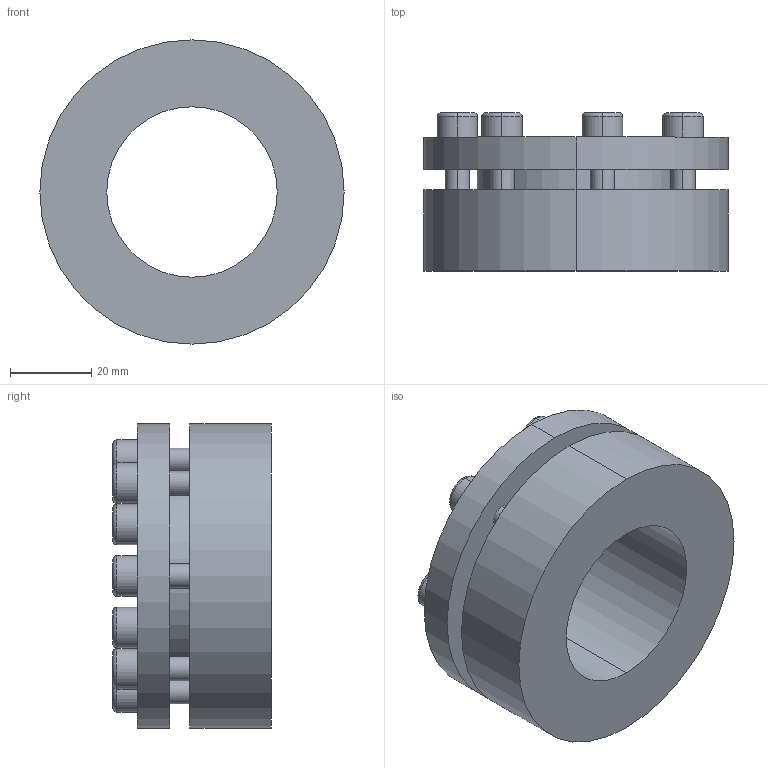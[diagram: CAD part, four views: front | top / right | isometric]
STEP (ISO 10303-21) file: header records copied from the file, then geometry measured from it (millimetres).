
FILE_DESCRIPTION (( 'STEP AP203' ), '1' );
FILE_NAME ('PL-H3 42-75.STEP', '2021-10-23T01:07:56', ( '' ), ( '' ), 'SwSTEP 2.0', 'SolidWorks 2018', '' );
FILE_SCHEMA (( 'CONFIG_CONTROL_DESIGN' ));
Length unit declared in the file: millimetre
Products named in the file (1): PL-H3 42-75
Bounding box: 75 x 39 x 75 mm (x, y, z)
Volume: 91044.5 mm3; surface area: 24755 mm2
Topology: 1 solids, 1 shells, 110 faces, 262 edges, 170 vertices
Faces by surface type: plane 60, cylinder 36, torus 14
Entity records: 3303 total; most frequent: DIRECTION 584, CARTESIAN_POINT 543, ORIENTED_EDGE 524, EDGE_CURVE 262, AXIS2_PLACEMENT_3D 211, VERTEX_POINT 170, LINE 162, VECTOR 162
